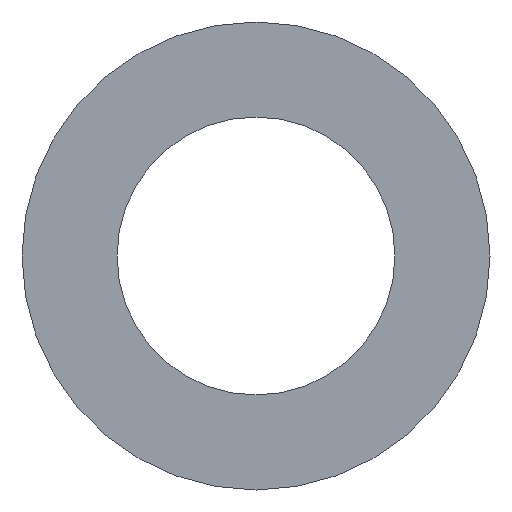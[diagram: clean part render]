
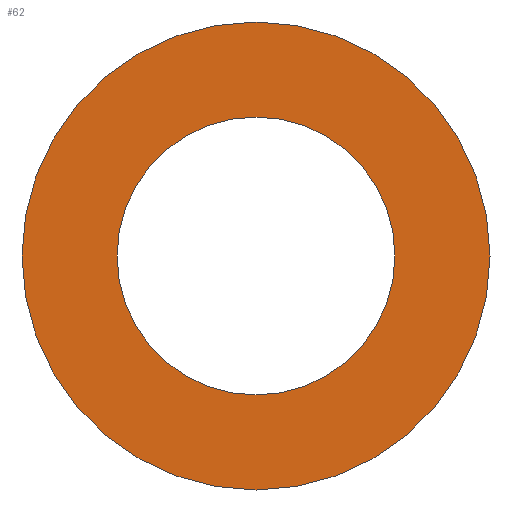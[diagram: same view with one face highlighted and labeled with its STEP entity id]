
A CAD part, front view. The second image highlights one B-rep face of the part: STEP entity #62.
In plain terms, the highlighted planar face has unit normal (0, -1, 0).
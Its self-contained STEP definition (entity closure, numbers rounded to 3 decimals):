
#20=PLANE('',#83);
#26=ORIENTED_EDGE('',*,*,#30,.T.);
#27=ORIENTED_EDGE('',*,*,#32,.F.);
#30=EDGE_CURVE('',#34,#34,#38,.T.);
#32=EDGE_CURVE('',#36,#36,#40,.T.);
#34=VERTEX_POINT('',#106);
#36=VERTEX_POINT('',#111);
#38=CIRCLE('',#78,66.5);
#40=CIRCLE('',#81,112.);
#46=EDGE_LOOP('',(#26));
#47=EDGE_LOOP('',(#27));
#54=FACE_BOUND('',#46,.T.);
#55=FACE_BOUND('',#47,.T.);
#62=ADVANCED_FACE('',(#54,#55),#20,.F.);
#78=AXIS2_PLACEMENT_3D('',#105,#89,#90);
#81=AXIS2_PLACEMENT_3D('',#110,#95,#96);
#83=AXIS2_PLACEMENT_3D('',#114,#99,#100);
#89=DIRECTION('',(0.,1.,0.));
#90=DIRECTION('',(1.,0.,0.));
#95=DIRECTION('',(0.,1.,0.));
#96=DIRECTION('',(1.,0.,0.));
#99=DIRECTION('',(0.,1.,0.));
#100=DIRECTION('',(0.,0.,1.));
#105=CARTESIAN_POINT('',(0.,-1.5,0.));
#106=CARTESIAN_POINT('',(66.5,-1.5,0.));
#110=CARTESIAN_POINT('',(0.,-1.5,0.));
#111=CARTESIAN_POINT('',(112.,-1.5,0.));
#114=CARTESIAN_POINT('',(0.,-1.5,0.));
